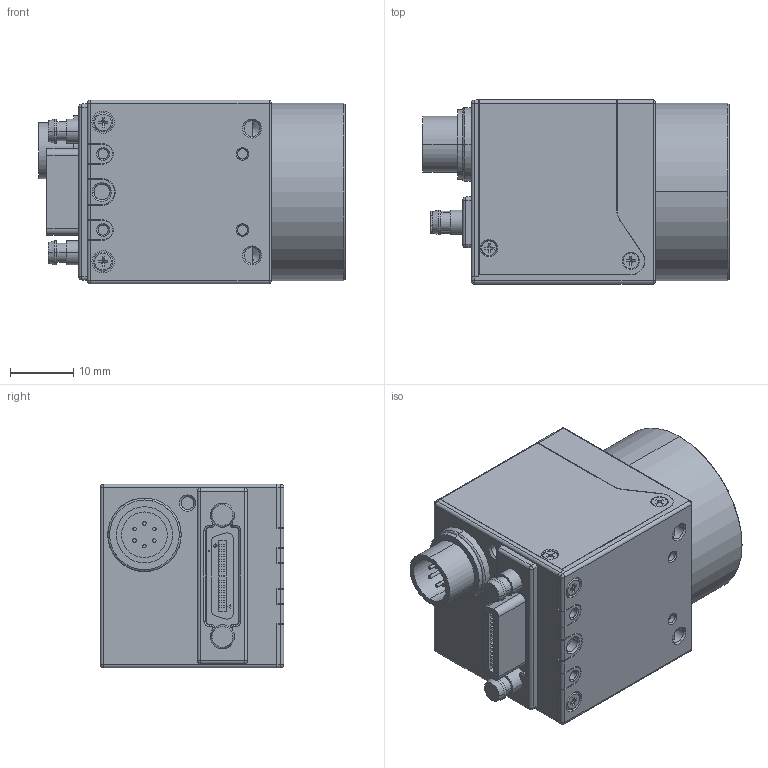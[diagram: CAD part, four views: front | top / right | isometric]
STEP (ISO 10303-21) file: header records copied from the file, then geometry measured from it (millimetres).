
FILE_DESCRIPTION((''),'2;1');
FILE_NAME('MC-A121M-1_ASM','2018-05-16T',('Dongwoo'),(''),'CREO PARAMETRIC BY PTC INC, 2016130','CREO PARAMETRIC BY PTC INC, 2016130','');
FILE_SCHEMA(('CONFIG_CONTROL_DESIGN'));
Length unit declared in the file: inch
Products named in the file (16): MCXP-GLASS-COVER_1_1_1; USB3_0-TOP-COVER_1_1_1; M1_6-L2_2_1_1; GLASS-18X15_1_1_1; M2_L3_2_1_1; SMCL-BACK-BASE_51_1_1; LED-SMD_4_1_1; PRT0002_4_1_1; HR10A_7R_6P_4_1_1; SMCL-BACK-BASE_ASM_14_ASM_1_ASM_ASM; M2_L2_3_1_1; SMCL-BASE-K_ASM_1_ASM_1_ASM_1_ASM; SMCL-BASE-K_ASM_ASM_1_ASM_1_ASM; PRT0003_1; MC-A121K_ASM_1_ASM; MC-A121M-1_ASM
Assembly tree (22 placements, depth 6):
  MC-A121M-1_ASM
    MC-A121K_ASM_1_ASM
      SMCL-BASE-K_ASM_ASM_1_ASM_1_ASM
        SMCL-BASE-K_ASM_1_ASM_1_ASM_1_ASM
          MCXP-GLASS-COVER_1_1_1
          USB3_0-TOP-COVER_1_1_1
          M1_6-L2_2_1_1  x4
          GLASS-18X15_1_1_1
          M2_L3_2_1_1  x3
          SMCL-BACK-BASE_ASM_14_ASM_1_ASM_ASM
            SMCL-BACK-BASE_51_1_1
            LED-SMD_4_1_1
            PRT0002_4_1_1
            HR10A_7R_6P_4_1_1
          M2_L2_3_1_1  x3
      PRT0003_1
Bounding box: 48.36 x 29 x 29 mm (x, y, z)
Volume: 25665.5 mm3; surface area: 17963 mm2
Topology: 18 solids, 47 shells, 1546 faces, 3864 edges, 2486 vertices
Faces by surface type: plane 919, cylinder 430, cone 116, bspline 43, torus 34, sphere 4
Entity records: 45907 total; most frequent: CARTESIAN_POINT 13879, DIRECTION 6598, ORIENTED_EDGE 6500, EDGE_CURVE 3290, AXIS2_PLACEMENT_3D 2241, VERTEX_POINT 2153, VECTOR 2116, LINE 2116
